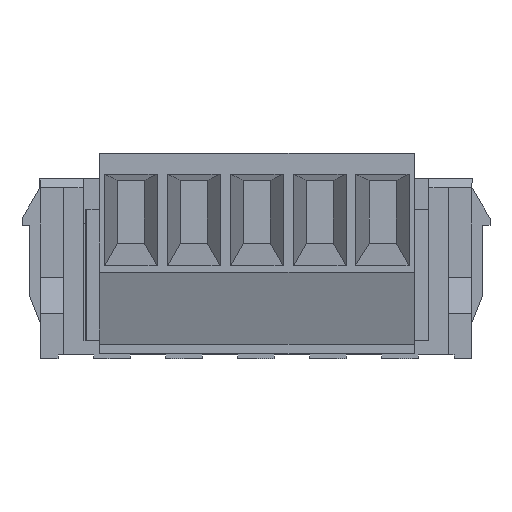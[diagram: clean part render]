
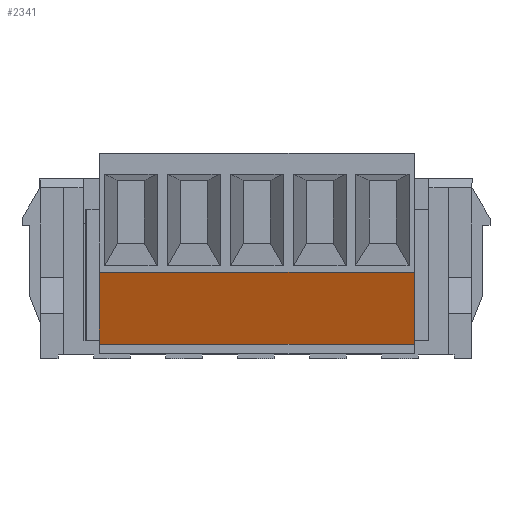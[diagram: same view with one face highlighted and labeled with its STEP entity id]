
A CAD part, front view. The second image highlights one B-rep face of the part: STEP entity #2341.
In plain terms, the highlighted planar face has unit normal (0, -0.936, -0.351).
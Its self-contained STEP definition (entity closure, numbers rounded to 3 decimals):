
#2234 = ORIENTED_EDGE ( 'NONE', *, *, #2305, .T. ) ;
#2235 = ORIENTED_EDGE ( 'NONE', *, *, #2312, .F. ) ;
#2236 = VERTEX_POINT ( 'NONE', #7452 ) ;
#2290 = VERTEX_POINT ( 'NONE', #7498 ) ;
#2293 = VERTEX_POINT ( 'NONE', #7460 ) ;
#2304 = EDGE_CURVE ( 'NONE', #2290, #2357, #7537, .T. ) ;
#2305 = EDGE_CURVE ( 'NONE', #2236, #2290, #7530, .T. ) ;
#2312 = EDGE_CURVE ( 'NONE', #2236, #2293, #7523, .T. ) ;
#2341 = ADVANCED_FACE ( 'NONE', ( #7600 ), #7590, .F. ) ;
#2342 = ORIENTED_EDGE ( 'NONE', *, *, #2355, .F. ) ;
#2355 = EDGE_CURVE ( 'NONE', #2293, #2357, #7625, .T. ) ;
#2357 = VERTEX_POINT ( 'NONE', #7638 ) ;
#2358 = ORIENTED_EDGE ( 'NONE', *, *, #2304, .T. ) ;
#2359 = EDGE_LOOP ( 'NONE', ( #2358, #2342, #2235, #2234 ) ) ;
#7452 = CARTESIAN_POINT ( 'NONE',  ( -8.7, -31.1, 0.8 ) ) ;
#7460 = CARTESIAN_POINT ( 'NONE',  ( -8.7, -32.6, 4.8 ) ) ;
#7498 = CARTESIAN_POINT ( 'NONE',  ( 8.8, -31.1, 0.8 ) ) ;
#7521 = VECTOR ( 'NONE', #7578, 1000. ) ;
#7522 = CARTESIAN_POINT ( 'NONE',  ( -8.7, -31.1, 0.8 ) ) ;
#7523 = LINE ( 'NONE', #7522, #7521 ) ;
#7527 = DIRECTION ( 'NONE',  ( 1., 0., 0. ) ) ;
#7528 = VECTOR ( 'NONE', #7527, 1000. ) ;
#7529 = CARTESIAN_POINT ( 'NONE',  ( -8.7, -31.1, 0.8 ) ) ;
#7530 = LINE ( 'NONE', #7529, #7528 ) ;
#7534 = DIRECTION ( 'NONE',  ( 0., -0.351, 0.936 ) ) ;
#7535 = VECTOR ( 'NONE', #7534, 1000. ) ;
#7536 = CARTESIAN_POINT ( 'NONE',  ( 8.8, -31.1, 0.8 ) ) ;
#7537 = LINE ( 'NONE', #7536, #7535 ) ;
#7578 = DIRECTION ( 'NONE',  ( 0., -0.351, 0.936 ) ) ;
#7588 = DIRECTION ( 'NONE',  ( 0., 0.351, -0.936 ) ) ;
#7590 = PLANE ( 'NONE',  #7605 ) ;
#7598 = DIRECTION ( 'NONE',  ( 0., 0.936, 0.351 ) ) ;
#7599 = CARTESIAN_POINT ( 'NONE',  ( -8.7, -31.1, 0.8 ) ) ;
#7600 = FACE_OUTER_BOUND ( 'NONE', #2359, .T. ) ;
#7605 = AXIS2_PLACEMENT_3D ( 'NONE', #7599, #7598, #7588 ) ;
#7622 = DIRECTION ( 'NONE',  ( 1., 0., 0. ) ) ;
#7623 = VECTOR ( 'NONE', #7622, 1000. ) ;
#7624 = CARTESIAN_POINT ( 'NONE',  ( -8.7, -32.6, 4.8 ) ) ;
#7625 = LINE ( 'NONE', #7624, #7623 ) ;
#7638 = CARTESIAN_POINT ( 'NONE',  ( 8.8, -32.6, 4.8 ) ) ;
